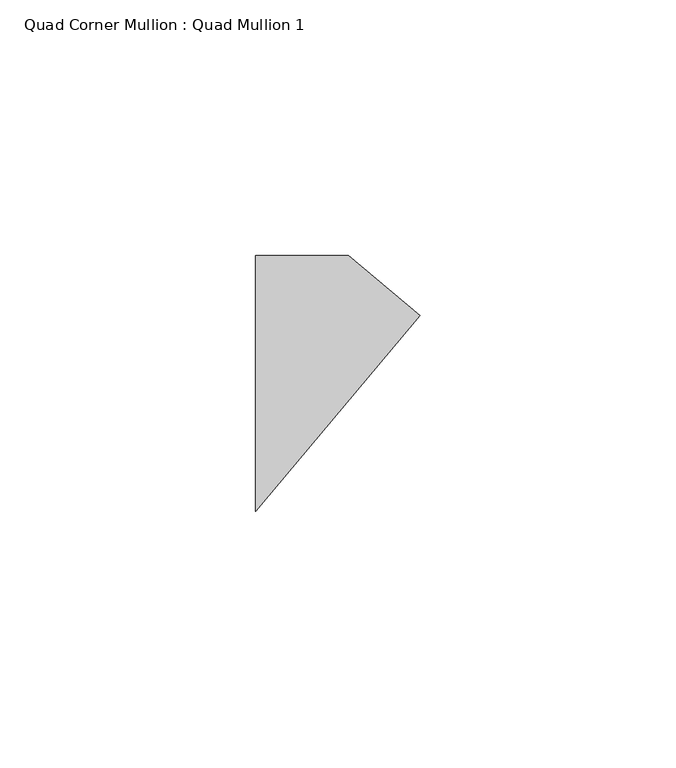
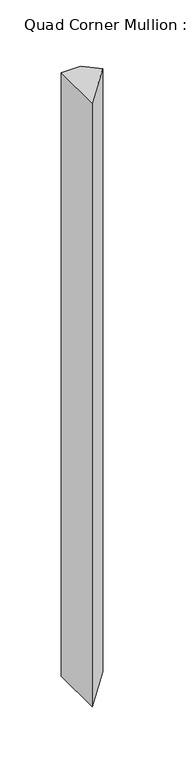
"""IFC4 building model written with IfcOpenShell, lengths in millimetres: member geometry, Quad Corner Mullion : Quad Mullion 1."""

from ifc_helpers import new_model, si_unit, frame, origin, place, context, project, spatial, polyline, outline, extrude, source, transform, mapped, element, save


def quad_corner_mullion_quad_mullion_1_04ff56b3(model_context):
    return source(origin(), model_context, "Body", "SweptSolid", [
        extrude(outline(polyline([(23.0401246, 13.3022222), (-9.0992559, -25.0), (-9.0992559, 25.0), (9.0992559, 25.0), (23.0401246, 13.3022222)])), frame((0.0, 0.0, -600.0), z_axis=(0.0, 0.0, 1.0), x_axis=(1.0, 0.0, 0.0)), (0.0, 0.0, 1.0), 600.0),
    ])


if __name__ == "__main__":
    model = new_model("IFC4")
    model_context = context("Model", 3, world=origin())
    ifc_project = project(units=[si_unit("LENGTHUNIT", "METRE", prefix="MILLI")], contexts=[model_context])
    site = spatial("IfcSite", under=ifc_project)
    building = spatial("IfcBuilding", under=site)
    placement = place(None, origin())
    quad_corner_mullion_quad_mullion_1_shape = quad_corner_mullion_quad_mullion_1_04ff56b3(model_context)
    element("IfcMember", 1, ObjectType="Quad Corner Mullion : Quad Mullion 1", at=placement, inside=building, context=model_context, shape_type="MappedRepresentation", body=[
        mapped(quad_corner_mullion_quad_mullion_1_shape, transform((0.0, 0.0, 0.0), x_axis=(1.0, 0.0, 0.0), y_axis=(0.0, 1.0, 0.0), z_axis=(0.0, 0.0, 1.0))),
    ])
    save(model, "model.ifc")
